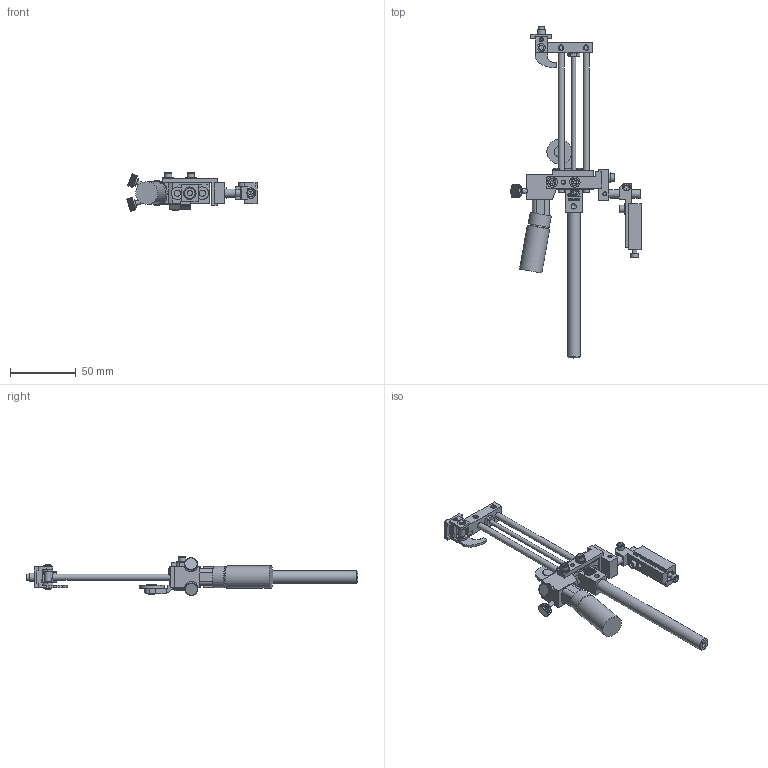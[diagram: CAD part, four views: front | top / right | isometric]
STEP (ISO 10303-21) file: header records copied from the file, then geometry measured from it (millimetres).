
FILE_DESCRIPTION((''),'2;1');
FILE_NAME('C:\Documents and Settings\Ron\My Documents\Inventor\Sprinter Drawing\Machines in Inventor\Model 22\Dot\3-sixth\Ext Str\E2\Brkt\Ext\Model 22 ES 2 3-16 dot ext w brkt.stp','2009-01-22T12:04:41',('Ron'),(''),'Autodesk Inventor 2008','Autodesk Inventor 2008','');
FILE_SCHEMA(('AUTOMOTIVE_DESIGN { 1 0 10303 214 1 1 1 1 }'));
Length unit declared in the file: inch
Products named in the file (1): Model 22 ES 2 3-16 dot ext w brkt
Bounding box: 99.17 x 252.91 x 29.56 mm (x, y, z)
Volume: 6477.6 mm3; surface area: 37652.6 mm2
Topology: 40 solids, 41 shells, 4747 faces, 13164 edges, 8739 vertices
Faces by surface type: plane 2904, bspline 1290, cylinder 484, cone 56, torus 13
Full cylindrical faces by diameter (mm): 2.845 x3, 2.946 x2, 3.175 x3, 3.505 x7, 3.556 x2, 3.658 x2, 3.876 x1, 3.962 x9, 4.064 x1, 4.166 x3, 4.648 x2, 4.699 x1, 4.75 x1, 4.763 x2, 4.775 x3, 4.788 x1, 5.41 x2, 5.74 x6, 6.096 x1, 6.325 x2, 6.35 x4, 6.477 x1, 6.655 x1, 7.925 x4, 7.938 x1, 8.128 x1, 9.462 x1, 9.525 x1, 10.922 x1, 11.938 x1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
Entity records: 166369 total; most frequent: CARTESIAN_POINT 49319, ORIENTED_EDGE 25830, DIRECTION 18486, EDGE_CURVE 12915, VECTOR 9074, LINE 9074, VERTEX_POINT 8647, EDGE_LOOP 5271
